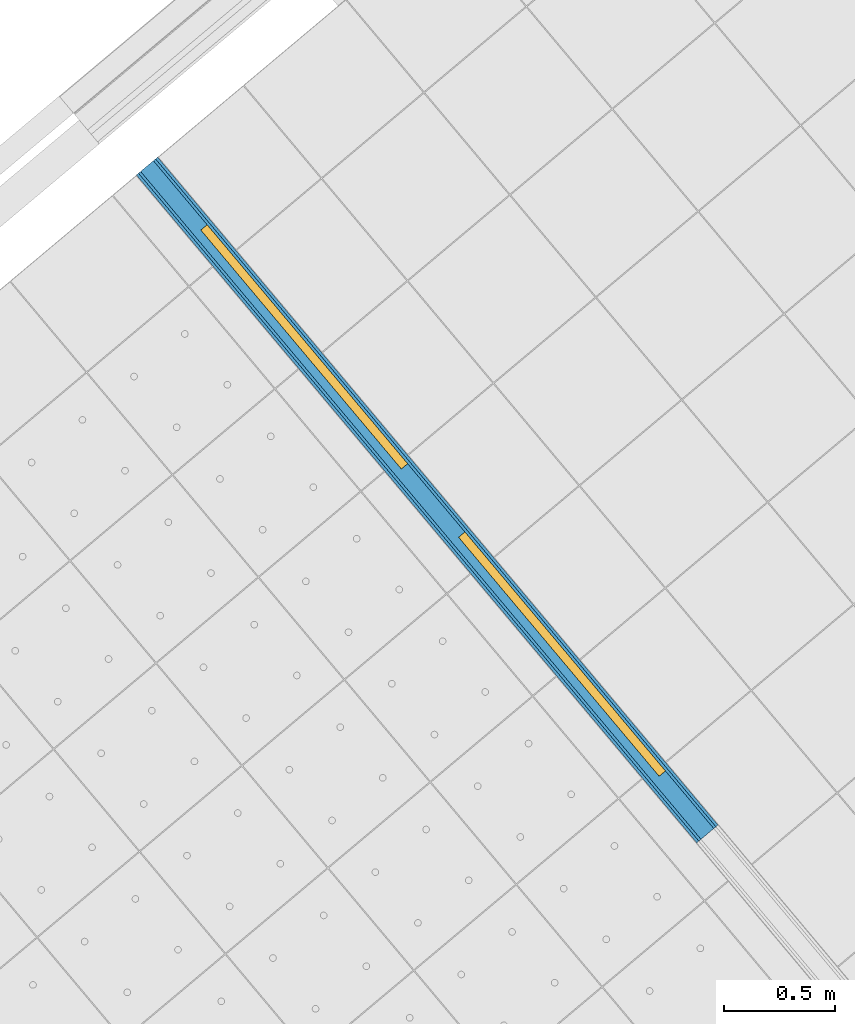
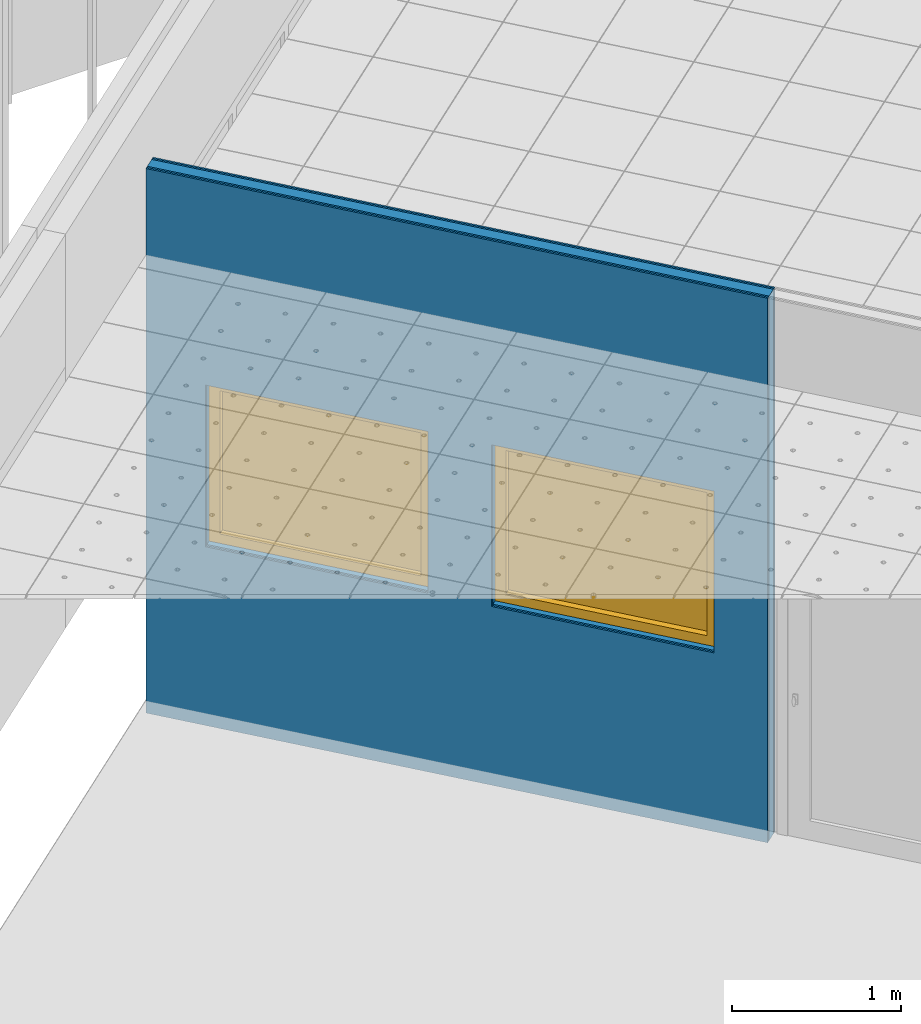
# One storey, part 40 of 321: 5 building element parts, 2 windows, 2 openings, 1 element without a shape of its own.
"""IFC2X3 building model written with IfcOpenShell, lengths in millimetres."""

from ifc_helpers import new_model, entity, si_unit, converted_unit, derived_unit, money_unit, direction, frame, origin_with_axes, place, context, subcontext, project, spatial, open_shell, faceted_brep, surface_model, source, transform, mapped, material, type_object, type_shapes, element, fill, aggregate, save


model = new_model("IFC2X3")

# Units and contexts
model_context = context("Model", 3, precision=0.01, world=origin_with_axes(), true_north=direction((0.0, 1.0)))
plan_context = context("Plan", 3, precision=0.01, world=origin_with_axes(), true_north=direction((0.0, 1.0)))
body_context = subcontext(model_context, "Body", "Model", "MODEL_VIEW")
ifc_project = project(units=[si_unit("LENGTHUNIT", "METRE", prefix="MILLI"), si_unit("AREAUNIT", "SQUARE_METRE"), si_unit("VOLUMEUNIT", "CUBIC_METRE"), converted_unit("PLANEANGLEUNIT", "DEGREE", entity("IfcPlaneAngleMeasure", 0.0174532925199), si_unit("PLANEANGLEUNIT", "RADIAN"), dimensions=[0, 0, 0, 0, 0, 0, 0]), money_unit("EUR"), converted_unit("TIMEUNIT", "Year", entity("IfcTimeMeasure", 31556926.0), si_unit("TIMEUNIT", "SECOND"), dimensions=[0, 0, 1, 0, 0, 0, 0]), si_unit("MASSUNIT", "GRAM", prefix="KILO"), si_unit("THERMODYNAMICTEMPERATUREUNIT", "DEGREE_CELSIUS"), si_unit("LUMINOUSINTENSITYUNIT", "LUMEN"), si_unit("ENERGYUNIT", "JOULE", prefix="MEGA"), derived_unit("THERMALCONDUCTANCEUNIT", [(si_unit("POWERUNIT", "WATT"), 1), (si_unit("LENGTHUNIT", "METRE"), -1), (si_unit("THERMODYNAMICTEMPERATUREUNIT", "KELVIN"), -1)]), derived_unit("SPECIFICHEATCAPACITYUNIT", [(si_unit("ENERGYUNIT", "JOULE"), 1), (si_unit("MASSUNIT", "GRAM", prefix="KILO"), -1), (si_unit("THERMODYNAMICTEMPERATUREUNIT", "KELVIN"), -1)]), derived_unit("MASSDENSITYUNIT", [(si_unit("MASSUNIT", "GRAM", prefix="KILO"), 1), (si_unit("VOLUMEUNIT", "CUBIC_METRE"), -1)])], contexts=[model_context, plan_context])

# Site, building, storey
site_placement = place(None, origin_with_axes())
site = spatial("IfcSite", under=ifc_project, at=site_placement, Name="Fortuinstraat Woensdrecht", CompositionType="ELEMENT")
building_placement = place(site_placement, origin_with_axes())
building = spatial("IfcBuilding", under=site, at=building_placement, Name="IKC Fortuna", CompositionType="ELEMENT")
storey_placement = place(building_placement, frame((0.0, 0.0, 4000.0), z_axis=(0.0, 0.0, 1.0), x_axis=(1.0, 0.0, 0.0)))
storey = spatial("IfcBuildingStorey", under=building, at=storey_placement, Name="01 eerste verdieping", CompositionType="ELEMENT", Elevation=4000.0)

# Window
window_style = type_object("IfcWindowStyle", Name="R1 25", ConstructionType="NOTDEFINED", OperationType="SINGLE_PANEL", ParameterTakesPrecedence=False, Sizeable=False)
shared_shape = source(origin_with_axes(), body_context, "Body", "SurfaceModel", [
    faceted_brep([(633.0, -62.0, 1100.0), (700.0, -62.0, 1100.0), (700.0, 0.0, 1100.0), (633.0, 0.0, 1100.0), (633.0, -62.0, 67.0), (700.0, -62.0, 67.0), (700.0, 0.0, 67.0), (633.0, 0.0, 67.0)], [[[0, 1, 2, 3]], [[0, 4, 5, 1]], [[1, 5, 6, 2]], [[3, 2, 6, 7]], [[4, 0, 3, 7]], [[5, 4, 7, 6]]]),
    faceted_brep([(-633.0, -62.0, 67.0), (-700.0, -62.0, 67.0), (-700.0, 0.0, 67.0), (-633.0, 0.0, 67.0), (-633.0, -62.0, 1100.0), (-700.0, -62.0, 1100.0), (-700.0, 0.0, 1100.0), (-633.0, 0.0, 1100.0)], [[[0, 1, 2, 3]], [[0, 4, 5, 1]], [[1, 5, 6, 2]], [[3, 2, 6, 7]], [[4, 0, 3, 7]], [[5, 4, 7, 6]]]),
    faceted_brep([(633.0, -62.0, 67.0), (700.0, -62.0, 67.0), (700.0, 0.0, 67.0), (633.0, 0.0, 67.0), (-633.0, -62.0, 67.0), (-700.0, -62.0, 67.0), (-700.0, -62.0, 0.0), (700.0, -62.0, 0.0), (700.0, 0.0, 0.0), (-700.0, 0.0, 0.0), (-700.0, 0.0, 67.0), (-633.0, 0.0, 67.0)], [[[0, 1, 2, 3]], [[0, 4, 5, 6, 7, 1]], [[1, 7, 8, 2]], [[3, 2, 8, 9, 10, 11]], [[4, 0, 3, 11]], [[5, 4, 11, 10]], [[6, 5, 10, 9]], [[7, 6, 9, 8]]]),
    faceted_brep([(-633.0, -62.0, 1100.0), (-700.0, -62.0, 1100.0), (-700.0, 0.0, 1100.0), (-633.0, 0.0, 1100.0), (633.0, -62.0, 1100.0), (700.0, -62.0, 1100.0), (700.0, -62.0, 1167.0), (-700.0, -62.0, 1167.0), (-700.0, 0.0, 1167.0), (700.0, 0.0, 1167.0), (700.0, 0.0, 1100.0), (633.0, 0.0, 1100.0)], [[[0, 1, 2, 3]], [[0, 4, 5, 6, 7, 1]], [[1, 7, 8, 2]], [[3, 2, 8, 9, 10, 11]], [[4, 0, 3, 11]], [[5, 4, 11, 10]], [[6, 5, 10, 9]], [[7, 6, 9, 8]]]),
    surface_model("IfcShellBasedSurfaceModel", [(633.0, -64.0, 67.0), (633.0, -64.0, 1100.0), (-633.0, -64.0, 1100.0), (-633.0, -64.0, 67.0)], [open_shell([[[0, 1, 2, 3]]])]),
    surface_model("IfcShellBasedSurfaceModel", [(633.0, -44.0, 67.0), (-633.0, -44.0, 67.0), (-633.0, -44.0, 1100.0), (633.0, -44.0, 1100.0)], [open_shell([[[0, 1, 2, 3]]])]),
])
type_shapes(window_style, [shared_shape])
wall_placement = place(storey_placement, frame((10341.632318, 8398.30270386, 1360.0), z_axis=(0.0, 0.0, 1.0), x_axis=(0.642787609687, -0.766044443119, 0.0)))
opening_1_placement = place(wall_placement, frame((2875.26270045, 0.0, 1290.0), z_axis=(0.0, 0.0, 1.0), x_axis=(1.0, 0.0, 0.0)))
window_1_placement = place(opening_1_placement, frame((700.0, 0.0, 0.0), z_axis=(0.0, 0.0, 1.0), x_axis=(-1.0, 0.0, 0.0)))
window_1 = element("IfcWindow", 1, at=window_1_placement, inside=storey, type_object=window_style, Name="32_Raam_h.05", ObjectType="WINDOW", OverallHeight=1167.0, OverallWidth=1400.0, context=body_context, shape_type="MappedRepresentation", body=[
    mapped(shared_shape, transform((700.0, -0.499999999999, 0.0))),
])

opening_2_placement = place(wall_placement, frame((1075.26270045, 0.0, 1290.0), z_axis=(0.0, 0.0, 1.0), x_axis=(1.0, 0.0, 0.0)))
window_2_placement = place(opening_2_placement, frame((700.0, 0.0, 0.0), z_axis=(0.0, 0.0, 1.0), x_axis=(-1.0, 0.0, 0.0)))
window_2 = element("IfcWindow", 2, at=window_2_placement, inside=storey, type_object=window_style, Name="32_Raam_h.05", ObjectType="WINDOW", OverallHeight=1167.0, OverallWidth=1400.0, context=body_context, shape_type="MappedRepresentation", body=[
    mapped(shared_shape, transform((700.0, -0.500000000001, 0.0))),
])

# Wall, opening
wall_type = type_object("IfcWallType", Name="MS125 2.75.2A 125", PredefinedType="NOTDEFINED")
wall = element("IfcWall", 3, at=wall_placement, inside=storey, type_object=wall_type, Name="22_Wand_Binnenwand")
opening_1 = element("IfcOpeningElement", 4, at=opening_1_placement, cuts=wall, Name="32_Raam_h.05", context=body_context, shape_type="Brep", body=[
    faceted_brep([(700.0, 250.0, 0.0), (700.0, 250.0, 1167.0), (700.0, -125.0, 1167.0), (700.0, -125.0, 0.0), (-700.0, 250.0, 0.0), (-700.0, 250.0, 1167.0), (-700.0, -125.0, 1167.0), (-700.0, -125.0, 0.0)], [[[0, 1, 2, 3]], [[0, 4, 5, 1]], [[1, 5, 6, 2]], [[3, 2, 6, 7]], [[4, 0, 3, 7]], [[5, 4, 7, 6]]]),
])

fill(opening_1, window_1)

# Opening
opening_2 = element("IfcOpeningElement", 5, at=opening_2_placement, cuts=wall, Name="32_Raam_h.05", context=body_context, shape_type="Brep", body=[
    faceted_brep([(700.0, 250.0, 0.0), (700.0, 250.0, 1167.0), (700.0, -125.0, 1167.0), (700.0, -125.0, 0.0), (-700.0, 250.0, 0.0), (-700.0, 250.0, 1167.0), (-700.0, -125.0, 1167.0), (-700.0, -125.0, 0.0)], [[[0, 1, 2, 3]], [[0, 4, 5, 1]], [[1, 5, 6, 2]], [[3, 2, 6, 7]], [[4, 0, 3, 7]], [[5, 4, 7, 6]]]),
])

fill(opening_2, window_2)

# Building element part
ifc_material_1 = material(Name="Gipsplaat")
building_element_part_1_placement = place(wall_placement, origin_with_axes())
building_element_part_1 = element("IfcBuildingElementPart", 6, at=building_element_part_1_placement, material=ifc_material_1, Name="Gipsplaat", context=body_context, shape_type="Brep", body=[
    faceted_brep([(0.0, 50.0, 3930.0), (0.0, 50.0, 0.0), (3912.76270045, 50.0, 0.0), (3912.76270045, 50.0, 3930.0), (2175.26270045, 50.0, 2457.0), (3575.26270045, 50.0, 2457.0), (3575.26270045, 50.0, 1290.0), (2175.26270045, 50.0, 1290.0), (375.262700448, 50.0, 1290.0), (375.262700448, 50.0, 2457.0), (1775.26270045, 50.0, 2457.0), (1775.26270045, 50.0, 1290.0), (0.0, 62.5, 3930.0), (0.0, 62.5, 0.0), (3912.76270045, 62.5, 0.0), (3912.76270045, 62.5, 3930.0), (3575.26270045, 62.5, 2457.0), (2175.26270045, 62.5, 2457.0), (3575.26270045, 62.5, 1290.0), (2175.26270045, 62.5, 1290.0), (375.262700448, 62.5, 1290.0), (375.262700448, 62.5, 2457.0), (1775.26270045, 62.5, 2457.0), (1775.26270045, 62.5, 1290.0)], [[[0, 1, 2, 3], [4, 5, 6, 7], [8, 9, 10, 11]], [[0, 12, 13, 1]], [[1, 13, 14, 2]], [[3, 2, 14, 15]], [[12, 0, 3, 15]], [[16, 5, 4, 17]], [[18, 6, 5, 16]], [[19, 7, 6, 18]], [[17, 4, 7, 19]], [[20, 21, 9, 8]], [[21, 22, 10, 9]], [[22, 23, 11, 10]], [[23, 20, 8, 11]], [[13, 12, 15, 14], [18, 16, 17, 19], [20, 23, 22, 21]]]),
])

building_element_part_2_placement = place(wall_placement, origin_with_axes())
building_element_part_2 = element("IfcBuildingElementPart", 7, at=building_element_part_2_placement, material=ifc_material_1, Name="Gipsplaat", context=body_context, shape_type="Brep", body=[
    faceted_brep([(0.0, 37.5, 3930.0), (0.0, 37.5, 0.0), (3912.76270045, 37.5, 0.0), (3912.76270045, 37.5, 3930.0), (2175.26270045, 37.5, 2457.0), (3575.26270045, 37.5, 2457.0), (3575.26270045, 37.5, 1290.0), (2175.26270045, 37.5, 1290.0), (375.262700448, 37.5, 1290.0), (375.262700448, 37.5, 2457.0), (1775.26270045, 37.5, 2457.0), (1775.26270045, 37.5, 1290.0), (0.0, 50.0, 3930.0), (0.0, 50.0, 0.0), (3912.76270045, 50.0, 0.0), (3912.76270045, 50.0, 3930.0), (3575.26270045, 50.0, 2457.0), (2175.26270045, 50.0, 2457.0), (3575.26270045, 50.0, 1290.0), (2175.26270045, 50.0, 1290.0), (375.262700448, 50.0, 1290.0), (375.262700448, 50.0, 2457.0), (1775.26270045, 50.0, 2457.0), (1775.26270045, 50.0, 1290.0)], [[[0, 1, 2, 3], [4, 5, 6, 7], [8, 9, 10, 11]], [[0, 12, 13, 1]], [[1, 13, 14, 2]], [[3, 2, 14, 15]], [[12, 0, 3, 15]], [[16, 5, 4, 17]], [[18, 6, 5, 16]], [[19, 7, 6, 18]], [[17, 4, 7, 19]], [[20, 21, 9, 8]], [[21, 22, 10, 9]], [[22, 23, 11, 10]], [[23, 20, 8, 11]], [[13, 12, 15, 14], [18, 16, 17, 19], [20, 23, 22, 21]]]),
])

ifc_material_2 = material(Name="Isolatie - Steenwol LSW")
building_element_part_3_placement = place(wall_placement, origin_with_axes())
building_element_part_3 = element("IfcBuildingElementPart", 8, at=building_element_part_3_placement, material=ifc_material_2, Name="Isolatie - Steenwol LSW", context=body_context, shape_type="Brep", body=[
    faceted_brep([(0.0, -37.5, 3930.0), (0.0, -37.5, 0.0), (3912.76270045, -37.5, 0.0), (3912.76270045, -37.5, 3930.0), (2175.26270045, -37.5, 2457.0), (3575.26270045, -37.5, 2457.0), (3575.26270045, -37.5, 1290.0), (2175.26270045, -37.5, 1290.0), (375.262700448, -37.5, 1290.0), (375.262700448, -37.5, 2457.0), (1775.26270045, -37.5, 2457.0), (1775.26270045, -37.5, 1290.0), (0.0, 37.5, 3930.0), (0.0, 37.5, 0.0), (3912.76270045, 37.5, 0.0), (3912.76270045, 37.5, 3930.0), (3575.26270045, 37.5, 2457.0), (2175.26270045, 37.5, 2457.0), (3575.26270045, 37.5, 1290.0), (2175.26270045, 37.5, 1290.0), (375.262700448, 37.5, 1290.0), (375.262700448, 37.5, 2457.0), (1775.26270045, 37.5, 2457.0), (1775.26270045, 37.5, 1290.0)], [[[0, 1, 2, 3], [4, 5, 6, 7], [8, 9, 10, 11]], [[0, 12, 13, 1]], [[1, 13, 14, 2]], [[3, 2, 14, 15]], [[12, 0, 3, 15]], [[16, 5, 4, 17]], [[18, 6, 5, 16]], [[19, 7, 6, 18]], [[17, 4, 7, 19]], [[20, 21, 9, 8]], [[21, 22, 10, 9]], [[22, 23, 11, 10]], [[23, 20, 8, 11]], [[13, 12, 15, 14], [18, 16, 17, 19], [20, 23, 22, 21]]]),
])

building_element_part_4_placement = place(wall_placement, origin_with_axes())
building_element_part_4 = element("IfcBuildingElementPart", 9, at=building_element_part_4_placement, material=ifc_material_1, Name="Gipsplaat", context=body_context, shape_type="Brep", body=[
    faceted_brep([(0.0, -50.0, 3930.0), (0.0, -50.0, 0.0), (3912.76270045, -50.0, 0.0), (3912.76270045, -50.0, 3930.0), (2175.26270045, -50.0, 2457.0), (3575.26270045, -50.0, 2457.0), (3575.26270045, -50.0, 1290.0), (2175.26270045, -50.0, 1290.0), (375.262700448, -50.0, 1290.0), (375.262700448, -50.0, 2457.0), (1775.26270045, -50.0, 2457.0), (1775.26270045, -50.0, 1290.0), (0.0, -37.5, 3930.0), (0.0, -37.5, 0.0), (3912.76270045, -37.5, 0.0), (3912.76270045, -37.5, 3930.0), (3575.26270045, -37.5, 2457.0), (2175.26270045, -37.5, 2457.0), (3575.26270045, -37.5, 1290.0), (2175.26270045, -37.5, 1290.0), (375.262700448, -37.5, 1290.0), (375.262700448, -37.5, 2457.0), (1775.26270045, -37.5, 2457.0), (1775.26270045, -37.5, 1290.0)], [[[0, 1, 2, 3], [4, 5, 6, 7], [8, 9, 10, 11]], [[0, 12, 13, 1]], [[1, 13, 14, 2]], [[3, 2, 14, 15]], [[12, 0, 3, 15]], [[16, 5, 4, 17]], [[18, 6, 5, 16]], [[19, 7, 6, 18]], [[17, 4, 7, 19]], [[20, 21, 9, 8]], [[21, 22, 10, 9]], [[22, 23, 11, 10]], [[23, 20, 8, 11]], [[13, 12, 15, 14], [18, 16, 17, 19], [20, 23, 22, 21]]]),
])

building_element_part_5_placement = place(wall_placement, origin_with_axes())
building_element_part_5 = element("IfcBuildingElementPart", 10, at=building_element_part_5_placement, material=ifc_material_1, Name="Gipsplaat", context=body_context, shape_type="Brep", body=[
    faceted_brep([(0.0, -62.5, 3930.0), (0.0, -62.5, 0.0), (3912.76270045, -62.5, 0.0), (3912.76270045, -62.5, 3930.0), (2175.26270045, -62.5, 2457.0), (3575.26270045, -62.5, 2457.0), (3575.26270045, -62.5, 1290.0), (2175.26270045, -62.5, 1290.0), (375.262700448, -62.5, 1290.0), (375.262700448, -62.5, 2457.0), (1775.26270045, -62.5, 2457.0), (1775.26270045, -62.5, 1290.0), (0.0, -50.0, 3930.0), (0.0, -50.0, 0.0), (3912.76270045, -50.0, 0.0), (3912.76270045, -50.0, 3930.0), (3575.26270045, -50.0, 2457.0), (2175.26270045, -50.0, 2457.0), (3575.26270045, -50.0, 1290.0), (2175.26270045, -50.0, 1290.0), (375.262700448, -50.0, 1290.0), (375.262700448, -50.0, 2457.0), (1775.26270045, -50.0, 2457.0), (1775.26270045, -50.0, 1290.0)], [[[0, 1, 2, 3], [4, 5, 6, 7], [8, 9, 10, 11]], [[0, 12, 13, 1]], [[1, 13, 14, 2]], [[3, 2, 14, 15]], [[12, 0, 3, 15]], [[16, 5, 4, 17]], [[18, 6, 5, 16]], [[19, 7, 6, 18]], [[17, 4, 7, 19]], [[20, 21, 9, 8]], [[21, 22, 10, 9]], [[22, 23, 11, 10]], [[23, 20, 8, 11]], [[13, 12, 15, 14], [18, 16, 17, 19], [20, 23, 22, 21]]]),
])

aggregate(wall, [building_element_part_1, building_element_part_2, building_element_part_3, building_element_part_4, building_element_part_5])

save(model, "model.ifc")
